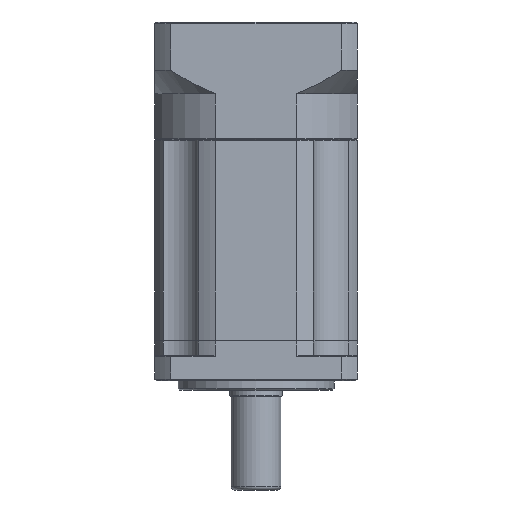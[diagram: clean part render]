
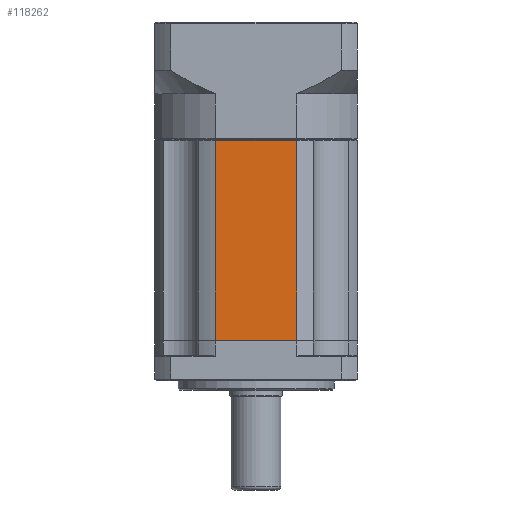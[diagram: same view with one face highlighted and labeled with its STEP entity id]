
A CAD part, front view. The second image highlights one B-rep face of the part: STEP entity #118262.
In plain terms, the highlighted planar face has unit normal (0, -1, 0).
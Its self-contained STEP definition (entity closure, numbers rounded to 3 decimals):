
#934 = CARTESIAN_POINT ( 'NONE',  ( -28.395, 4.23, -19.145 ) ) ;
#4887 = EDGE_CURVE ( 'NONE', #79654, #91413, #123084, .T. ) ;
#8573 = CARTESIAN_POINT ( 'NONE',  ( -28.395, 4.23, -83.245 ) ) ;
#15364 = ORIENTED_EDGE ( 'NONE', *, *, #4887, .T. ) ;
#18608 = DIRECTION ( 'NONE',  ( 0., 0., 1. ) ) ;
#20763 = VECTOR ( 'NONE', #64404, 1000. ) ;
#26326 = VECTOR ( 'NONE', #48096, 1000. ) ;
#27044 = DIRECTION ( 'NONE',  ( 0., 1., 0. ) ) ;
#29427 = EDGE_CURVE ( 'NONE', #89585, #91413, #78182, .T. ) ;
#29746 = CARTESIAN_POINT ( 'NONE',  ( -54.376, 4.23, -18.945 ) ) ;
#41461 = ORIENTED_EDGE ( 'NONE', *, *, #89501, .T. ) ;
#45564 = CARTESIAN_POINT ( 'NONE',  ( -28.395, 4.23, -18.945 ) ) ;
#47644 = LINE ( 'NONE', #111474, #20763 ) ;
#48096 = DIRECTION ( 'NONE',  ( 0., 0., -1. ) ) ;
#53265 = VERTEX_POINT ( 'NONE', #98851 ) ;
#59165 = LINE ( 'NONE', #29746, #26326 ) ;
#64404 = DIRECTION ( 'NONE',  ( -1., 0., 0. ) ) ;
#69961 = CARTESIAN_POINT ( 'NONE',  ( -54.376, 4.23, -83.245 ) ) ;
#73769 = FACE_OUTER_BOUND ( 'NONE', #114536, .T. ) ;
#78182 = LINE ( 'NONE', #45564, #115407 ) ;
#79654 = VERTEX_POINT ( 'NONE', #69961 ) ;
#83922 = DIRECTION ( 'NONE',  ( 0., 0., -1. ) ) ;
#83997 = DIRECTION ( 'NONE',  ( 1., 0., 0. ) ) ;
#84219 = EDGE_CURVE ( 'NONE', #89585, #53265, #47644, .T. ) ;
#89501 = EDGE_CURVE ( 'NONE', #53265, #79654, #59165, .T. ) ;
#89585 = VERTEX_POINT ( 'NONE', #934 ) ;
#91413 = VERTEX_POINT ( 'NONE', #8573 ) ;
#92532 = AXIS2_PLACEMENT_3D ( 'NONE', #103246, #27044, #18608 ) ;
#97725 = VECTOR ( 'NONE', #83997, 1000. ) ;
#98851 = CARTESIAN_POINT ( 'NONE',  ( -54.376, 4.23, -19.145 ) ) ;
#103058 = CARTESIAN_POINT ( 'NONE',  ( -28.395, 4.23, -83.245 ) ) ;
#103246 = CARTESIAN_POINT ( 'NONE',  ( -28.395, 4.23, -18.945 ) ) ;
#106719 = ORIENTED_EDGE ( 'NONE', *, *, #29427, .F. ) ;
#111474 = CARTESIAN_POINT ( 'NONE',  ( -54.376, 4.23, -19.145 ) ) ;
#114536 = EDGE_LOOP ( 'NONE', ( #106719, #115826, #41461, #15364 ) ) ;
#115407 = VECTOR ( 'NONE', #83922, 1000. ) ;
#115826 = ORIENTED_EDGE ( 'NONE', *, *, #84219, .T. ) ;
#118262 = ADVANCED_FACE ( 'NONE', ( #73769 ), #122850, .F. ) ;
#122850 = PLANE ( 'NONE',  #92532 ) ;
#123084 = LINE ( 'NONE', #103058, #97725 ) ;
